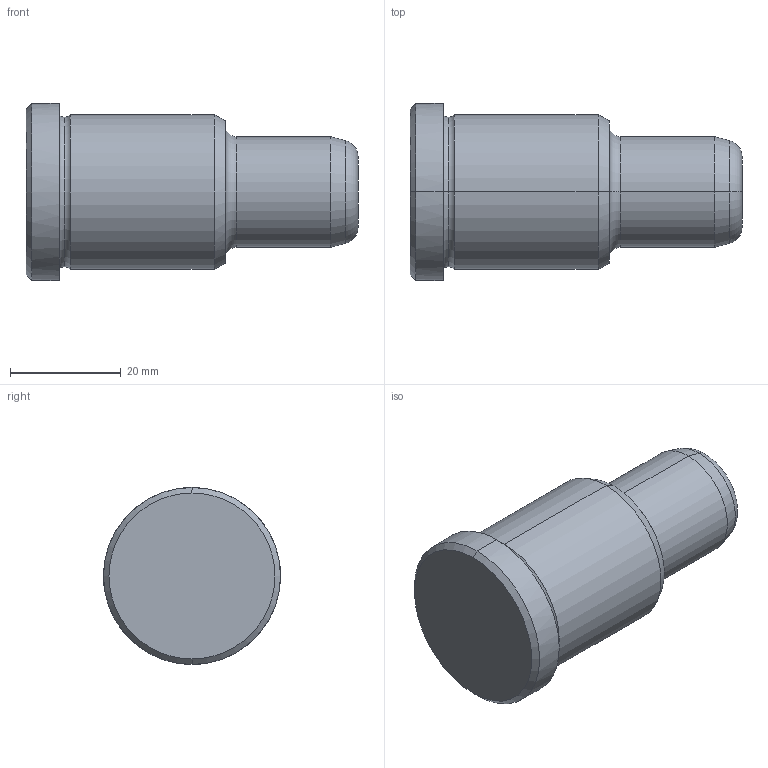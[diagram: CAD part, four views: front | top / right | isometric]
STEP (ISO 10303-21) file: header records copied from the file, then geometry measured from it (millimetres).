
FILE_DESCRIPTION(('CATIA V5 STEP Exchange'),'2;1');
FILE_NAME('C:\Users\Utente\Desktop\IO LAVORO\3D X SITO CF\X SITO\PLASTICA\351\351-20X36X60.stp','2021-08-27T12:28:29+00:00',('none'),('none'),'CATIA Version 5 Release 20 GA (IN-10)','CATIA V5 STEP AP203','none');
FILE_SCHEMA(('CONFIG_CONTROL_DESIGN'));
Length unit declared in the file: millimetre
Products named in the file (1): 351-20X36X60
Bounding box: 60 x 32 x 32 mm (x, y, z)
Volume: 30431.7 mm3; surface area: 6062.3 mm2
Topology: 1 solids, 1 shells, 24 faces, 70 edges, 50 vertices
Faces by surface type: torus 8, cone 6, cylinder 6, plane 4
Entity records: 932 total; most frequent: CARTESIAN_POINT 257, ORIENTED_EDGE 140, DIRECTION 110, AXIS2_PLACEMENT_3D 75, EDGE_CURVE 70, CIRCLE 50, VERTEX_POINT 50, EDGE_LOOP 26
